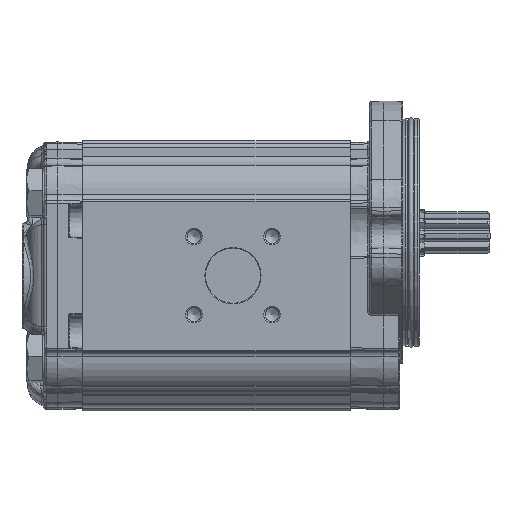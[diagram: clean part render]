
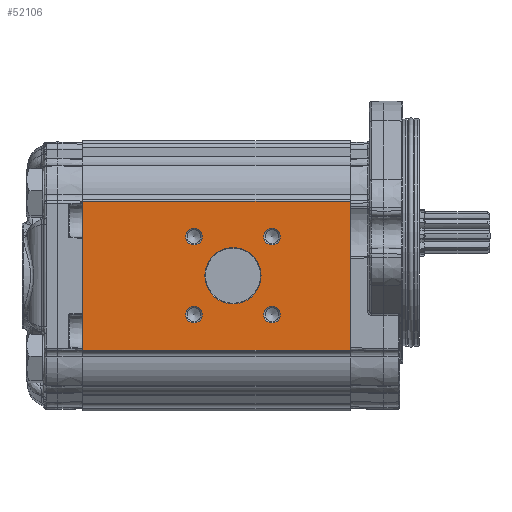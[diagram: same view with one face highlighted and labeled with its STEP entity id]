
A CAD part, left-side view. The second image highlights one B-rep face of the part: STEP entity #52106.
In plain terms, the highlighted planar face has unit normal (-1, 0, 0).
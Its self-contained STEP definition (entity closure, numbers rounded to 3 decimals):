
#3553=PLANE('',#55858);
#4864=LINE('',#95093,#6524);
#4865=LINE('',#95096,#6525);
#4866=LINE('',#95098,#6526);
#4867=LINE('',#95100,#6527);
#6524=VECTOR('',#63924,1000.);
#6525=VECTOR('',#63925,1000.);
#6526=VECTOR('',#63926,1000.);
#6527=VECTOR('',#63927,1000.);
#14459=ORIENTED_EDGE('',*,*,#21704,.T.);
#14460=ORIENTED_EDGE('',*,*,#21705,.T.);
#14461=ORIENTED_EDGE('',*,*,#21706,.T.);
#14462=ORIENTED_EDGE('',*,*,#21707,.T.);
#14463=ORIENTED_EDGE('',*,*,#21708,.T.);
#14464=ORIENTED_EDGE('',*,*,#21709,.F.);
#14465=ORIENTED_EDGE('',*,*,#21710,.F.);
#14466=ORIENTED_EDGE('',*,*,#21711,.T.);
#14467=ORIENTED_EDGE('',*,*,#21712,.T.);
#21704=EDGE_CURVE('',#25713,#25713,#28275,.F.);
#21705=EDGE_CURVE('',#25714,#25714,#28276,.F.);
#21706=EDGE_CURVE('',#25715,#25715,#28277,.F.);
#21707=EDGE_CURVE('',#25716,#25716,#28278,.F.);
#21708=EDGE_CURVE('',#25717,#25717,#28279,.F.);
#21709=EDGE_CURVE('',#25718,#25719,#4864,.T.);
#21710=EDGE_CURVE('',#25720,#25718,#4865,.T.);
#21711=EDGE_CURVE('',#25720,#25721,#4866,.T.);
#21712=EDGE_CURVE('',#25721,#25719,#4867,.T.);
#25713=VERTEX_POINT('',#95084);
#25714=VERTEX_POINT('',#95086);
#25715=VERTEX_POINT('',#95088);
#25716=VERTEX_POINT('',#95090);
#25717=VERTEX_POINT('',#95092);
#25718=VERTEX_POINT('',#95094);
#25719=VERTEX_POINT('',#95095);
#25720=VERTEX_POINT('',#95097);
#25721=VERTEX_POINT('',#95099);
#28275=CIRCLE('',#55859,10.2);
#28276=CIRCLE('',#55860,3.);
#28277=CIRCLE('',#55861,3.);
#28278=CIRCLE('',#55862,3.);
#28279=CIRCLE('',#55863,3.);
#30480=EDGE_LOOP('',(#14459));
#30481=EDGE_LOOP('',(#14460));
#30482=EDGE_LOOP('',(#14461));
#30483=EDGE_LOOP('',(#14462));
#30484=EDGE_LOOP('',(#14463));
#30485=EDGE_LOOP('',(#14464,#14465,#14466,#14467));
#33142=FACE_BOUND('',#30480,.T.);
#33143=FACE_BOUND('',#30481,.T.);
#33144=FACE_BOUND('',#30482,.T.);
#33145=FACE_BOUND('',#30483,.T.);
#33146=FACE_BOUND('',#30484,.T.);
#33147=FACE_BOUND('',#30485,.T.);
#52106=ADVANCED_FACE('',(#33142,#33143,#33144,#33145,#33146,#33147),#3553,
 .T.);
#55858=AXIS2_PLACEMENT_3D('',#95082,#63912,#63913);
#55859=AXIS2_PLACEMENT_3D('',#95083,#63914,#63915);
#55860=AXIS2_PLACEMENT_3D('',#95085,#63916,#63917);
#55861=AXIS2_PLACEMENT_3D('',#95087,#63918,#63919);
#55862=AXIS2_PLACEMENT_3D('',#95089,#63920,#63921);
#55863=AXIS2_PLACEMENT_3D('',#95091,#63922,#63923);
#63912=DIRECTION('',(-1.,0.,0.));
#63913=DIRECTION('',(0.,0.,1.));
#63914=DIRECTION('',(-1.,0.,0.));
#63915=DIRECTION('',(0.,0.,1.));
#63916=DIRECTION('',(-1.,0.,0.));
#63917=DIRECTION('',(0.,0.,1.));
#63918=DIRECTION('',(-1.,0.,0.));
#63919=DIRECTION('',(0.,0.,1.));
#63920=DIRECTION('',(-1.,0.,0.));
#63921=DIRECTION('',(0.,0.,1.));
#63922=DIRECTION('',(-1.,0.,0.));
#63923=DIRECTION('',(0.,0.,1.));
#63924=DIRECTION('',(0.,0.,-1.));
#63925=DIRECTION('',(0.,-1.,0.));
#63926=DIRECTION('',(0.,0.,-1.));
#63927=DIRECTION('',(0.,-1.,0.));
#95082=CARTESIAN_POINT('',(-43.,97.,27.048));
#95083=CARTESIAN_POINT('',(-43.,42.5,0.));
#95084=CARTESIAN_POINT('',(-43.,42.5,10.2));
#95085=CARTESIAN_POINT('',(-43.,56.642,-14.142));
#95086=CARTESIAN_POINT('',(-43.,56.642,-11.142));
#95087=CARTESIAN_POINT('',(-43.,56.642,14.142));
#95088=CARTESIAN_POINT('',(-43.,56.642,17.142));
#95089=CARTESIAN_POINT('',(-43.,28.358,14.142));
#95090=CARTESIAN_POINT('',(-43.,28.358,17.142));
#95091=CARTESIAN_POINT('',(-43.,28.358,-14.142));
#95092=CARTESIAN_POINT('',(-43.,28.358,-11.142));
#95093=CARTESIAN_POINT('',(-43.,0.,27.048));
#95094=CARTESIAN_POINT('',(-43.,0.,27.048));
#95095=CARTESIAN_POINT('',(-43.,0.,-27.048));
#95096=CARTESIAN_POINT('',(-43.,97.,27.048));
#95097=CARTESIAN_POINT('',(-43.,97.,27.048));
#95098=CARTESIAN_POINT('',(-43.,97.,27.048));
#95099=CARTESIAN_POINT('',(-43.,97.,-27.048));
#95100=CARTESIAN_POINT('',(-43.,97.,-27.048));
